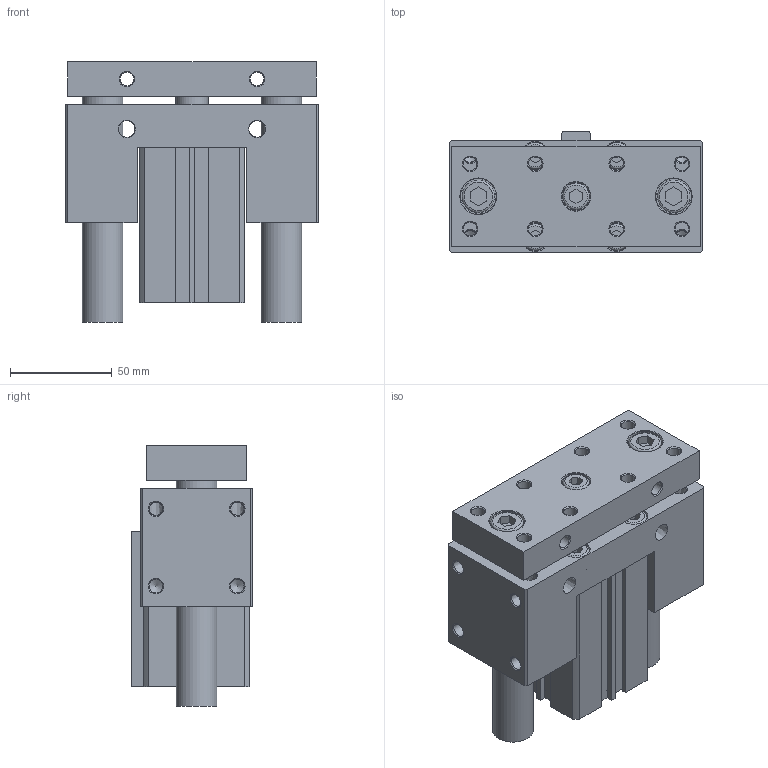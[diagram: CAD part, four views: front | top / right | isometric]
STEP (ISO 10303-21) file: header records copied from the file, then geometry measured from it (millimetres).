
FILE_DESCRIPTION((''),'2;1');
FILE_NAME('I:\3D電子目錄\氣缸\JCB\JCB\JCB40\JCB40x50.stp','2007-08-23T20:08:57',('Administrator'),(''),'Autodesk Inventor 11','Autodesk Inventor 11','');
FILE_SCHEMA(('AUTOMOTIVE_DESIGN { 1 0 10303 214 1 1 1 1 }'));
Length unit declared in the file: millimetre
Products named in the file (1): JCB40
Bounding box: 124 x 59.5 x 128 mm (x, y, z)
Volume: 564037.8 mm3; surface area: 123810.9 mm2
Topology: 3 solids, 3 shells, 303 faces, 731 edges, 473 vertices
Faces by surface type: plane 163, cylinder 52, cone 47, bspline 33, torus 8
Full cylindrical faces by diameter (mm): 2.2 x2, 6.647 x4, 6.8 x4, 10 x8, 13 x5, 14 x5, 16 x3, 17 x1, 17.5 x2, 20 x2, 23 x2, 28 x1, 29 x1, 42 x4, 44.5 x2
Entity records: 8528 total; most frequent: CARTESIAN_POINT 2090, DIRECTION 1302, ORIENTED_EDGE 1114, EDGE_CURVE 557, EDGE_LOOP 522, AXIS2_PLACEMENT_3D 480, VERTEX_POINT 435, VECTOR 342
